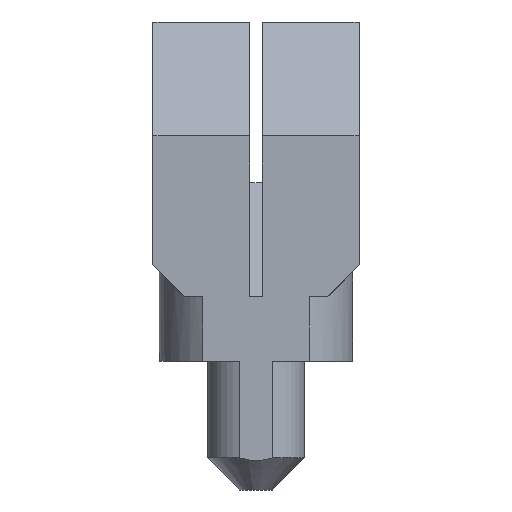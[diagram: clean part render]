
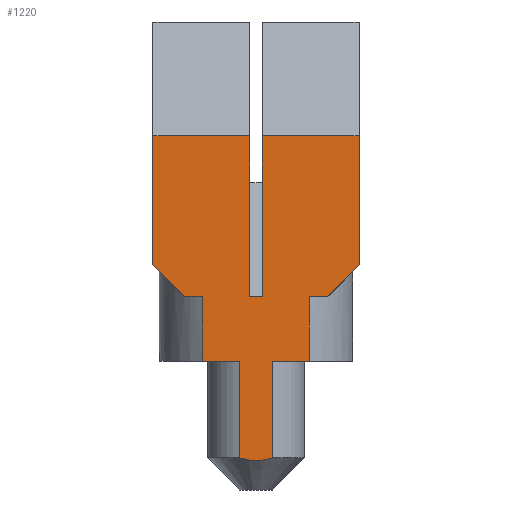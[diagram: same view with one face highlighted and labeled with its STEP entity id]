
A CAD part, front view. The second image highlights one B-rep face of the part: STEP entity #1220.
In plain terms, the highlighted planar face has unit normal (0, -1, 0).
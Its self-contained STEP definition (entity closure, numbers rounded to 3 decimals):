
#28 = ORIENTED_EDGE ( 'NONE', *, *, #892, .T. ) ;
#31 = LINE ( 'NONE', #1251, #258 ) ;
#32 = VECTOR ( 'NONE', #894, 1000. ) ;
#37 = CARTESIAN_POINT ( 'NONE',  ( 0.5, -2.5, -3. ) ) ;
#45 = LINE ( 'NONE', #936, #861 ) ;
#48 = CARTESIAN_POINT ( 'NONE',  ( 0.171, -2.5, -3.086 ) ) ;
#62 = CARTESIAN_POINT ( 'NONE',  ( -0.172, -2.5, -3.086 ) ) ;
#67 = EDGE_CURVE ( 'NONE', #825, #373, #962, .T. ) ;
#78 = VECTOR ( 'NONE', #1217, 1000. ) ;
#79 = CARTESIAN_POINT ( 'NONE',  ( -0.2, -2.5, 2. ) ) ;
#86 = EDGE_CURVE ( 'NONE', #728, #216, #1160, .T. ) ;
#95 = EDGE_CURVE ( 'NONE', #1274, #1105, #478, .T. ) ;
#118 = VERTEX_POINT ( 'NONE', #770 ) ;
#133 = CARTESIAN_POINT ( 'NONE',  ( -3.2, -2.5, 2. ) ) ;
#151 = VERTEX_POINT ( 'NONE', #975 ) ;
#196 = VERTEX_POINT ( 'NONE', #410 ) ;
#209 = EDGE_CURVE ( 'NONE', #906, #151, #1096, .T. ) ;
#216 = VERTEX_POINT ( 'NONE', #1010 ) ;
#217 = ORIENTED_EDGE ( 'NONE', *, *, #67, .T. ) ;
#239 = CARTESIAN_POINT ( 'NONE',  ( -0.338, -2.5, -3.054 ) ) ;
#258 = VECTOR ( 'NONE', #559, 1000. ) ;
#262 = DIRECTION ( 'NONE',  ( 1., 0., 0. ) ) ;
#269 = VERTEX_POINT ( 'NONE', #1204 ) ;
#270 = VECTOR ( 'NONE', #473, 1000. ) ;
#281 = ORIENTED_EDGE ( 'NONE', *, *, #765, .F. ) ;
#294 = VERTEX_POINT ( 'NONE', #1295 ) ;
#323 = EDGE_CURVE ( 'NONE', #118, #890, #1131, .T. ) ;
#329 = LINE ( 'NONE', #409, #1155 ) ;
#337 = DIRECTION ( 'NONE',  ( 0., 0., 1. ) ) ;
#343 = VECTOR ( 'NONE', #907, 1000. ) ;
#348 = ORIENTED_EDGE ( 'NONE', *, *, #86, .F. ) ;
#353 = B_SPLINE_CURVE_WITH_KNOTS ( 'NONE', 3,
 ( #1052, #239, #62, #48, #1150, #37 ),
 .UNSPECIFIED., .F., .F.,
 ( 4, 2, 4 ),
 ( 0., 0.001, 0.001 ),
 .UNSPECIFIED. ) ;
#362 = ORIENTED_EDGE ( 'NONE', *, *, #95, .T. ) ;
#363 = DIRECTION ( 'NONE',  ( 1., 0., 0. ) ) ;
#373 = VERTEX_POINT ( 'NONE', #1239 ) ;
#378 = CARTESIAN_POINT ( 'NONE',  ( -1.658, -2.5, 0. ) ) ;
#404 = EDGE_CURVE ( 'NONE', #642, #1274, #1118, .T. ) ;
#409 = CARTESIAN_POINT ( 'NONE',  ( -1.658, -2.5, 0. ) ) ;
#410 = CARTESIAN_POINT ( 'NONE',  ( -2.234, -2.5, 2. ) ) ;
#418 = LINE ( 'NONE', #802, #1095 ) ;
#430 = EDGE_CURVE ( 'NONE', #906, #118, #1232, .T. ) ;
#450 = VECTOR ( 'NONE', #363, 1000. ) ;
#472 = FACE_OUTER_BOUND ( 'NONE', #918, .T. ) ;
#473 = DIRECTION ( 'NONE',  ( 0., 0., -1. ) ) ;
#475 = CARTESIAN_POINT ( 'NONE',  ( -3.2, -2.5, 3. ) ) ;
#476 = VECTOR ( 'NONE', #262, 1000. ) ;
#478 = LINE ( 'NONE', #378, #476 ) ;
#485 = VERTEX_POINT ( 'NONE', #475 ) ;
#498 = ORIENTED_EDGE ( 'NONE', *, *, #1015, .F. ) ;
#514 = LINE ( 'NONE', #133, #343 ) ;
#515 = VECTOR ( 'NONE', #337, 1000. ) ;
#522 = DIRECTION ( 'NONE',  ( 0., 0., 1. ) ) ;
#524 = CARTESIAN_POINT ( 'NONE',  ( 0.2, -2.5, 2. ) ) ;
#531 = CARTESIAN_POINT ( 'NONE',  ( 0.2, -2.5, 7. ) ) ;
#533 = ORIENTED_EDGE ( 'NONE', *, *, #669, .T. ) ;
#539 = LINE ( 'NONE', #848, #450 ) ;
#559 = DIRECTION ( 'NONE',  ( 0.695, 0., -0.719 ) ) ;
#586 = EDGE_CURVE ( 'NONE', #373, #216, #329, .T. ) ;
#592 = ORIENTED_EDGE ( 'NONE', *, *, #749, .T. ) ;
#600 = ORIENTED_EDGE ( 'NONE', *, *, #1194, .T. ) ;
#606 = VECTOR ( 'NONE', #623, 1000. ) ;
#612 = ORIENTED_EDGE ( 'NONE', *, *, #724, .F. ) ;
#617 = CARTESIAN_POINT ( 'NONE',  ( 1.658, -2.5, 0. ) ) ;
#623 = DIRECTION ( 'NONE',  ( 1., 0., 0. ) ) ;
#637 = CARTESIAN_POINT ( 'NONE',  ( 3.2, -2.5, 2. ) ) ;
#642 = VERTEX_POINT ( 'NONE', #701 ) ;
#669 = EDGE_CURVE ( 'NONE', #196, #825, #514, .T. ) ;
#671 = VECTOR ( 'NONE', #522, 1000. ) ;
#678 = CARTESIAN_POINT ( 'NONE',  ( -0.5, -2.5, -4. ) ) ;
#688 = VECTOR ( 'NONE', #956, 1000. ) ;
#691 = CARTESIAN_POINT ( 'NONE',  ( 0.2, -2.5, 2. ) ) ;
#693 = ORIENTED_EDGE ( 'NONE', *, *, #1072, .F. ) ;
#701 = CARTESIAN_POINT ( 'NONE',  ( 0.5, -2.5, -3. ) ) ;
#709 = CARTESIAN_POINT ( 'NONE',  ( -3.2, -2.5, 2. ) ) ;
#724 = EDGE_CURVE ( 'NONE', #485, #269, #1122, .T. ) ;
#726 = DIRECTION ( 'NONE',  ( 0.695, 0., 0.719 ) ) ;
#728 = VERTEX_POINT ( 'NONE', #821 ) ;
#749 = EDGE_CURVE ( 'NONE', #485, #196, #31, .T. ) ;
#751 = DIRECTION ( 'NONE',  ( 0., 1., 0. ) ) ;
#765 = EDGE_CURVE ( 'NONE', #798, #1127, #539, .T. ) ;
#770 = CARTESIAN_POINT ( 'NONE',  ( 3.2, -2.5, 3. ) ) ;
#780 = ORIENTED_EDGE ( 'NONE', *, *, #209, .F. ) ;
#785 = VECTOR ( 'NONE', #726, 1000. ) ;
#790 = CARTESIAN_POINT ( 'NONE',  ( 3.2, -2.5, 2. ) ) ;
#796 = CARTESIAN_POINT ( 'NONE',  ( 3.2, -2.5, 7. ) ) ;
#798 = VERTEX_POINT ( 'NONE', #1163 ) ;
#802 = CARTESIAN_POINT ( 'NONE',  ( 3.2, -2.5, 7. ) ) ;
#821 = CARTESIAN_POINT ( 'NONE',  ( -0.5, -2.5, -3. ) ) ;
#825 = VERTEX_POINT ( 'NONE', #940 ) ;
#837 = EDGE_CURVE ( 'NONE', #728, #642, #353, .T. ) ;
#842 = CARTESIAN_POINT ( 'NONE',  ( 0.5, -2.5, -4. ) ) ;
#848 = CARTESIAN_POINT ( 'NONE',  ( -1.658, -2.5, 2. ) ) ;
#855 = CARTESIAN_POINT ( 'NONE',  ( -1.658, -2.5, 2. ) ) ;
#861 = VECTOR ( 'NONE', #1227, 1000. ) ;
#862 = LINE ( 'NONE', #79, #688 ) ;
#866 = PLANE ( 'NONE',  #1006 ) ;
#875 = ORIENTED_EDGE ( 'NONE', *, *, #323, .T. ) ;
#889 = VECTOR ( 'NONE', #958, 1000. ) ;
#890 = VERTEX_POINT ( 'NONE', #796 ) ;
#892 = EDGE_CURVE ( 'NONE', #890, #1066, #418, .T. ) ;
#894 = DIRECTION ( 'NONE',  ( 0., 0., 1. ) ) ;
#906 = VERTEX_POINT ( 'NONE', #1218 ) ;
#907 = DIRECTION ( 'NONE',  ( 1., 0., 0. ) ) ;
#918 = EDGE_LOOP ( 'NONE', ( #348, #1198, #1243, #362, #498, #780, #1035, #875, #28, #1250, #281, #600, #693, #612, #592, #533, #217, #1280 ) ) ;
#921 = DIRECTION ( 'NONE',  ( 0., 0., 1. ) ) ;
#926 = DIRECTION ( 'NONE',  ( 1., 0., 0. ) ) ;
#927 = EDGE_CURVE ( 'NONE', #1127, #1066, #1011, .T. ) ;
#936 = CARTESIAN_POINT ( 'NONE',  ( 1.658, -2.5, 2. ) ) ;
#940 = CARTESIAN_POINT ( 'NONE',  ( -1.658, -2.5, 2. ) ) ;
#956 = DIRECTION ( 'NONE',  ( 0., 0., 1. ) ) ;
#958 = DIRECTION ( 'NONE',  ( 0., 0., 1. ) ) ;
#962 = LINE ( 'NONE', #970, #270 ) ;
#970 = CARTESIAN_POINT ( 'NONE',  ( -1.658, -2.5, 2. ) ) ;
#975 = CARTESIAN_POINT ( 'NONE',  ( 1.658, -2.5, 2. ) ) ;
#1006 = AXIS2_PLACEMENT_3D ( 'NONE', #855, #751, #1276 ) ;
#1010 = CARTESIAN_POINT ( 'NONE',  ( -0.5, -2.5, 0. ) ) ;
#1011 = LINE ( 'NONE', #691, #32 ) ;
#1015 = EDGE_CURVE ( 'NONE', #151, #1105, #45, .T. ) ;
#1035 = ORIENTED_EDGE ( 'NONE', *, *, #430, .T. ) ;
#1038 = CARTESIAN_POINT ( 'NONE',  ( 2.234, -2.5, 2. ) ) ;
#1039 = CARTESIAN_POINT ( 'NONE',  ( -3.2, -2.5, 7. ) ) ;
#1052 = CARTESIAN_POINT ( 'NONE',  ( -0.5, -2.5, -3. ) ) ;
#1066 = VERTEX_POINT ( 'NONE', #531 ) ;
#1072 = EDGE_CURVE ( 'NONE', #269, #294, #1153, .T. ) ;
#1095 = VECTOR ( 'NONE', #1212, 1000. ) ;
#1096 = LINE ( 'NONE', #790, #78 ) ;
#1105 = VERTEX_POINT ( 'NONE', #617 ) ;
#1118 = LINE ( 'NONE', #842, #515 ) ;
#1122 = LINE ( 'NONE', #709, #671 ) ;
#1127 = VERTEX_POINT ( 'NONE', #524 ) ;
#1130 = VECTOR ( 'NONE', #921, 1000. ) ;
#1131 = LINE ( 'NONE', #637, #1130 ) ;
#1150 = CARTESIAN_POINT ( 'NONE',  ( 0.338, -2.5, -3.054 ) ) ;
#1153 = LINE ( 'NONE', #1039, #606 ) ;
#1155 = VECTOR ( 'NONE', #926, 1000. ) ;
#1159 = CARTESIAN_POINT ( 'NONE',  ( 0.5, -2.5, 0. ) ) ;
#1160 = LINE ( 'NONE', #678, #889 ) ;
#1163 = CARTESIAN_POINT ( 'NONE',  ( -0.2, -2.5, 2. ) ) ;
#1194 = EDGE_CURVE ( 'NONE', #798, #294, #862, .T. ) ;
#1198 = ORIENTED_EDGE ( 'NONE', *, *, #837, .T. ) ;
#1204 = CARTESIAN_POINT ( 'NONE',  ( -3.2, -2.5, 7. ) ) ;
#1212 = DIRECTION ( 'NONE',  ( -1., 0., 0. ) ) ;
#1217 = DIRECTION ( 'NONE',  ( -1., 0., 0. ) ) ;
#1218 = CARTESIAN_POINT ( 'NONE',  ( 2.234, -2.5, 2. ) ) ;
#1220 = ADVANCED_FACE ( 'NONE', ( #472 ), #866, .F. ) ;
#1227 = DIRECTION ( 'NONE',  ( 0., 0., -1. ) ) ;
#1232 = LINE ( 'NONE', #1038, #785 ) ;
#1239 = CARTESIAN_POINT ( 'NONE',  ( -1.658, -2.5, 0. ) ) ;
#1243 = ORIENTED_EDGE ( 'NONE', *, *, #404, .T. ) ;
#1250 = ORIENTED_EDGE ( 'NONE', *, *, #927, .F. ) ;
#1251 = CARTESIAN_POINT ( 'NONE',  ( -3.2, -2.5, 3. ) ) ;
#1274 = VERTEX_POINT ( 'NONE', #1159 ) ;
#1276 = DIRECTION ( 'NONE',  ( 0., 0., 1. ) ) ;
#1280 = ORIENTED_EDGE ( 'NONE', *, *, #586, .T. ) ;
#1295 = CARTESIAN_POINT ( 'NONE',  ( -0.2, -2.5, 7. ) ) ;
